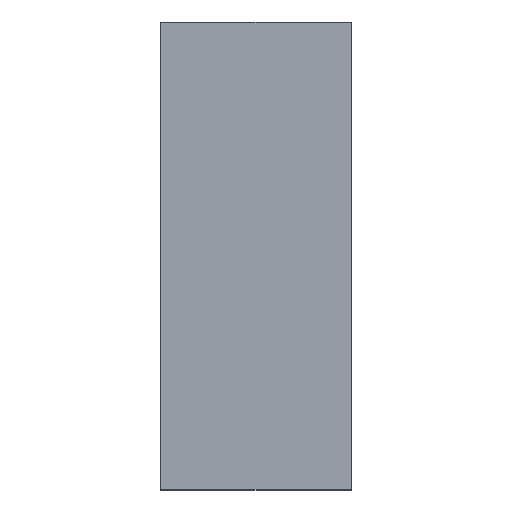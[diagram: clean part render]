
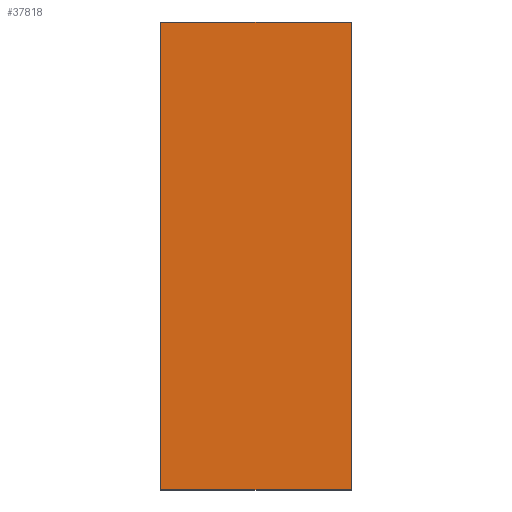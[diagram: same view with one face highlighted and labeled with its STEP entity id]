
A CAD part, left-side view. The second image highlights one B-rep face of the part: STEP entity #37818.
In plain terms, the highlighted planar face has unit normal (-1, 0, 0).
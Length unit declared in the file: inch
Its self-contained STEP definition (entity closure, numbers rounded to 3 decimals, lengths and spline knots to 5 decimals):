
#1174 = VECTOR ( 'NONE', #50386, 39.37008 ) ;
#1946 = DIRECTION ( 'NONE',  ( -1., 0., 0. ) ) ;
#2539 = LINE ( 'NONE', #43104, #25357 ) ;
#2809 = LINE ( 'NONE', #17996, #1174 ) ;
#6215 = CARTESIAN_POINT ( 'NONE',  ( -28.21241, 0., 7.86794 ) ) ;
#6919 = AXIS2_PLACEMENT_3D ( 'NONE', #37223, #1946, #21572 ) ;
#8397 = VERTEX_POINT ( 'NONE', #16220 ) ;
#9101 = FACE_OUTER_BOUND ( 'NONE', #51596, .T. ) ;
#10479 = EDGE_CURVE ( 'NONE', #16812, #16883, #41771, .T. ) ;
#12865 = CARTESIAN_POINT ( 'NONE',  ( -28.21241, -6.345, 7.86794 ) ) ;
#16220 = CARTESIAN_POINT ( 'NONE',  ( -28.21241, -6.345, -7.71241 ) ) ;
#16812 = VERTEX_POINT ( 'NONE', #31659 ) ;
#16883 = VERTEX_POINT ( 'NONE', #26825 ) ;
#17996 = CARTESIAN_POINT ( 'NONE',  ( -28.21241, -6.345, 7.86794 ) ) ;
#19218 = DIRECTION ( 'NONE',  ( 0., 1., 0. ) ) ;
#19374 = LINE ( 'NONE', #23104, #50746 ) ;
#21312 = PLANE ( 'NONE',  #6919 ) ;
#21463 = ORIENTED_EDGE ( 'NONE', *, *, #10479, .F. ) ;
#21572 = DIRECTION ( 'NONE',  ( 0., 0., 1. ) ) ;
#21928 = VERTEX_POINT ( 'NONE', #12865 ) ;
#23104 = CARTESIAN_POINT ( 'NONE',  ( -28.21241, -65.38138, -7.71241 ) ) ;
#24345 = ORIENTED_EDGE ( 'NONE', *, *, #25878, .F. ) ;
#25357 = VECTOR ( 'NONE', #19218, 39.37008 ) ;
#25878 = EDGE_CURVE ( 'NONE', #8397, #16812, #19374, .T. ) ;
#26825 = CARTESIAN_POINT ( 'NONE',  ( -28.21241, 0., 7.86794 ) ) ;
#27962 = EDGE_CURVE ( 'NONE', #21928, #16883, #2539, .T. ) ;
#28865 = VECTOR ( 'NONE', #38828, 39.37008 ) ;
#31659 = CARTESIAN_POINT ( 'NONE',  ( -28.21241, 0., -7.71241 ) ) ;
#37223 = CARTESIAN_POINT ( 'NONE',  ( -28.21241, -65.38138, 7.86794 ) ) ;
#37818 = ADVANCED_FACE ( 'NONE', ( #9101 ), #21312, .T. ) ;
#38828 = DIRECTION ( 'NONE',  ( 0., 0., 1. ) ) ;
#41771 = LINE ( 'NONE', #6215, #28865 ) ;
#42642 = EDGE_CURVE ( 'NONE', #21928, #8397, #2809, .T. ) ;
#43104 = CARTESIAN_POINT ( 'NONE',  ( -28.21241, -65.38138, 7.86794 ) ) ;
#46187 = ORIENTED_EDGE ( 'NONE', *, *, #27962, .T. ) ;
#48339 = ORIENTED_EDGE ( 'NONE', *, *, #42642, .F. ) ;
#50386 = DIRECTION ( 'NONE',  ( 0., 0., -1. ) ) ;
#50746 = VECTOR ( 'NONE', #51765, 39.37008 ) ;
#51596 = EDGE_LOOP ( 'NONE', ( #48339, #46187, #21463, #24345 ) ) ;
#51765 = DIRECTION ( 'NONE',  ( 0., 1., 0. ) ) ;
